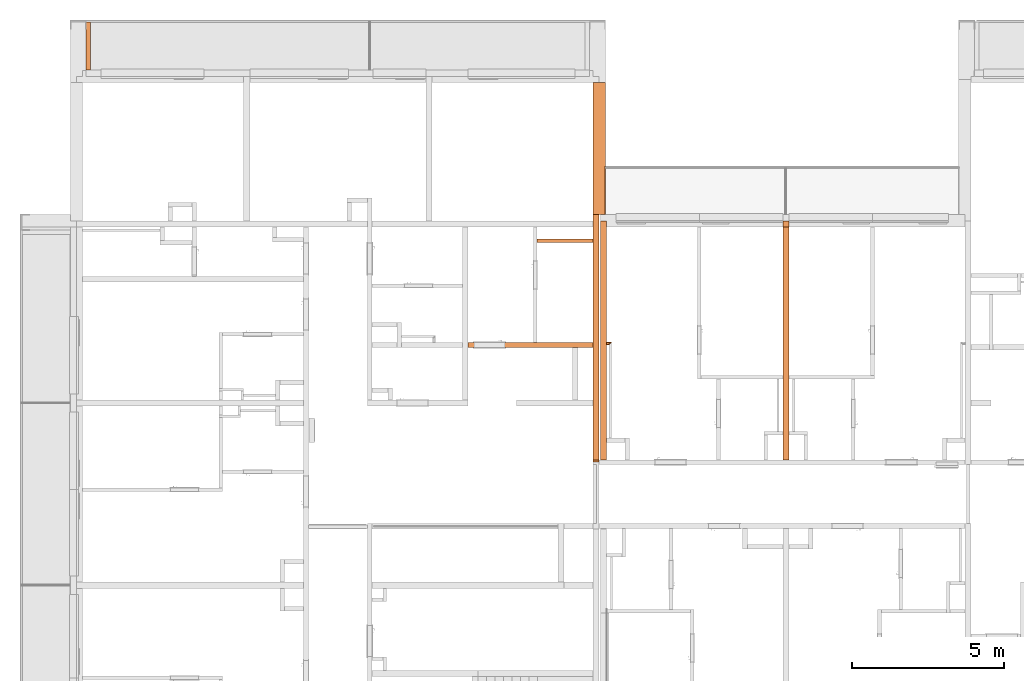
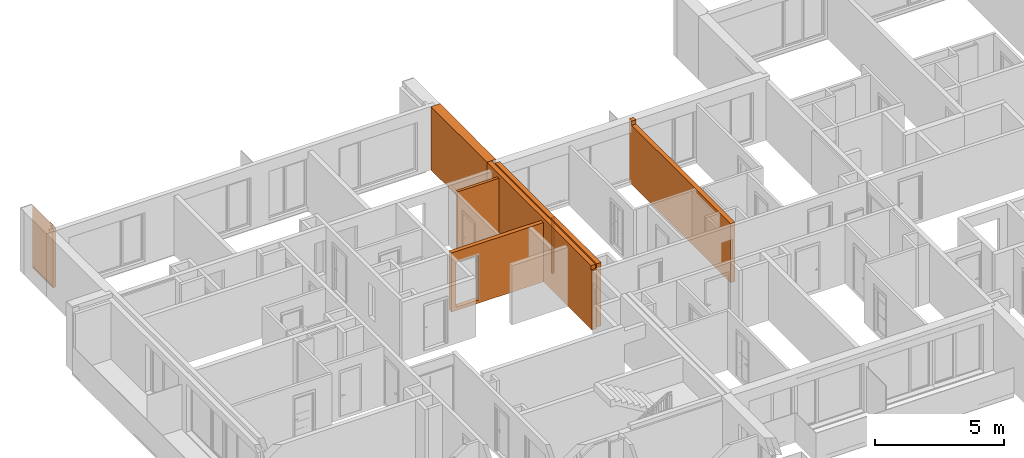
# One storey, part 58 of 64: 8 proxies, 1 opening.
"""IFC2X3 building model written with IfcOpenShell, lengths in millimetres."""

from ifc_helpers import new_model, entity, si_unit, converted_unit, derived_unit, money_unit, direction, frame, origin_with_axes, origin_2d_with_axis, place, context, subcontext, project, spatial, rectangle, extrude, faceted_brep, material, material_list, type_object, element, save


model = new_model("IFC2X3")

# Units and contexts
model_context = context("Model", 3, precision=0.01, world=origin_with_axes(), true_north=direction((0.34421633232, 0.938890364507)))
body_context = subcontext(model_context, "Body", "Model", "MODEL_VIEW")
ifc_project = project(units=[si_unit("LENGTHUNIT", "METRE", prefix="MILLI"), si_unit("AREAUNIT", "SQUARE_METRE"), si_unit("VOLUMEUNIT", "CUBIC_METRE"), converted_unit("PLANEANGLEUNIT", "DEGREE", entity("IfcPlaneAngleMeasure", 0.0174532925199), si_unit("PLANEANGLEUNIT", "RADIAN"), dimensions=[0, 0, 0, 0, 0, 0, 0]), si_unit("SOLIDANGLEUNIT", "STERADIAN"), money_unit("USD"), converted_unit("TIMEUNIT", "Year", entity("IfcTimeMeasure", 31556926.0), si_unit("TIMEUNIT", "SECOND"), dimensions=[0, 0, 1, 0, 0, 0, 0]), si_unit("MASSUNIT", "GRAM", prefix="KILO"), si_unit("THERMODYNAMICTEMPERATUREUNIT", "DEGREE_CELSIUS"), si_unit("LUMINOUSINTENSITYUNIT", "LUMEN"), si_unit("ENERGYUNIT", "JOULE", prefix="MEGA"), derived_unit("THERMALCONDUCTANCEUNIT", [(si_unit("POWERUNIT", "WATT"), 1), (si_unit("LENGTHUNIT", "METRE"), -1), (si_unit("THERMODYNAMICTEMPERATUREUNIT", "KELVIN"), -1)]), derived_unit("SPECIFICHEATCAPACITYUNIT", [(si_unit("ENERGYUNIT", "JOULE"), 1), (si_unit("MASSUNIT", "GRAM", prefix="KILO"), -1), (si_unit("THERMODYNAMICTEMPERATUREUNIT", "KELVIN"), -1)]), derived_unit("MASSDENSITYUNIT", [(si_unit("MASSUNIT", "GRAM", prefix="KILO"), 1), (si_unit("VOLUMEUNIT", "CUBIC_METRE"), -1)])], contexts=[model_context])

# Site, building, storey
site_placement = place(None, origin_with_axes())
site = spatial("IfcSite", under=ifc_project, at=site_placement, Name="USTRONIE MORSKIE", CompositionType="ELEMENT")
building_placement = place(site_placement, origin_with_axes())
building = spatial("IfcBuilding", under=site, at=building_placement, Name="Budynek", CompositionType="ELEMENT")
storey_placement = place(building_placement, frame((0.0, 0.0, 7000.0), z_axis=(0.0, 0.0, 1.0), x_axis=(1.0, 0.0, 0.0)))
storey = spatial("IfcBuildingStorey", under=building, at=storey_placement, Name="PIĘTRO 2", CompositionType="ELEMENT", Elevation=7000.0)

# Proxies
ifc_material_1 = material(Name="Bloczki silikatowe")
building_element_proxy_type_1 = type_object("IfcBuildingElementProxyType", Name="Bloczki silikatowe 120", PredefinedType="NOTDEFINED")
proxy_1_placement = place(storey_placement, frame((365067.901749, 744201.199036, -180.0), z_axis=(0.0, 0.0, 1.0), x_axis=(1.0, 0.0, 0.0)))
element("IfcBuildingElementProxy", 1, at=proxy_1_placement, inside=storey, type_object=building_element_proxy_type_1, material=ifc_material_1, Name="SW-04", context=body_context, shape_type="Brep", body=[
    faceted_brep([(1899.31516707, 0.0, 0.0), (1899.31516707, 0.0, 20.0), (60.0, 0.0, 20.0), (60.0, 0.0, 2820.0), (1900.01916964, 0.0, 2820.0), (1900.01916964, 0.0, 0.0), (1899.2990756, -120.0, 20.0), (1899.2990756, -120.0, 0.0), (60.0, -120.0, 20.0), (60.0, -120.0, 2820.0), (1900.01916964, -120.0, 2820.0), (1900.01916964, -120.0, 0.0)], [[[0, 1, 2, 3, 4, 5]], [[6, 1, 0, 7]], [[8, 2, 1, 6]], [[3, 2, 8, 9]], [[10, 4, 3, 9]], [[4, 10, 11, 5]], [[11, 7, 0, 5]], [[8, 6, 7, 11, 10, 9]]]),
])
ifc_material_2 = material(Name="Beton konstrukcyjny B25")
ifc_material_3 = material(Name="Wełna ELEW")
ifc_material_4 = material(Name="Tynk zewnętrzny")
ifc_material_list_1 = material_list([ifc_material_2, ifc_material_3, ifc_material_4])
building_element_proxy_type_2 = type_object("IfcBuildingElementProxyType", Name="20+20 410", PredefinedType="NOTDEFINED")
proxy_2_placement = place(storey_placement, frame((367067.920919, 745001.199036, -160.0), z_axis=(0.0, 0.0, 1.0), x_axis=(0.0, 1.0, 0.0)))
element("IfcBuildingElementProxy", 2, at=proxy_2_placement, inside=storey, type_object=building_element_proxy_type_2, material=ifc_material_list_1, Name="SZ-01", context=body_context, shape_type="Brep", body=[
    faceted_brep([(4350.0, -100.0, 0.0), (4350.0, -100.0, 3000.0), (0.0, -100.0, 3000.0), (0.0, -100.0, 0.0), (4350.0, 100.0, 3000.0), (4350.0, 100.0, 0.0), (0.0, 100.0, 3000.0), (0.0, 100.0, 0.0)], [[[0, 1, 2, 3]], [[4, 1, 0, 5]], [[1, 4, 6, 2]], [[2, 6, 7, 3]], [[5, 0, 3, 7]], [[4, 5, 7, 6]]]),
    faceted_brep([(0.0, -300.0, 0.0), (4350.0, -300.0, 0.0), (4350.0, -300.0, 3000.0), (0.0, -300.0, 3000.0), (0.0, -100.0, 0.0), (4350.0, -100.0, 0.0), (4350.0, -100.0, 3000.0), (0.0, -100.0, 3000.0)], [[[0, 1, 2, 3]], [[4, 5, 1, 0]], [[5, 6, 2, 1]], [[3, 2, 6, 7]], [[0, 3, 7, 4]], [[7, 6, 5, 4]]]),
    faceted_brep([(1599.99509907, -300.0, 3000.0), (1599.99509907, -310.0, 3000.0), (4350.0, -310.0, 3000.0), (4350.0, -300.0, 3000.0), (1599.99509907, -310.0, 2800.0), (1599.99509907, -300.0, 2800.0), (0.000382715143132, -310.0, 2800.0), (0.000383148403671, -310.0, 110.0), (1599.99509907, -310.0, 110.0), (1599.99509907, -310.0, 0.0), (4350.0, -310.0, 0.0), (4350.0, -300.0, 0.0), (1599.99509907, -300.0, 0.0), (1599.99509907, -300.0, 110.0), (0.000371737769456, -300.0, 110.0), (0.000371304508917, -300.0, 2800.0)], [[[0, 1, 2, 3]], [[4, 1, 0, 5]], [[4, 6, 7, 8, 9, 10, 2, 1]], [[11, 3, 2, 10]], [[5, 0, 3, 11, 12, 13, 14, 15]], [[6, 4, 5, 15]], [[6, 15, 14, 7]], [[8, 7, 14, 13]], [[8, 13, 12, 9]], [[9, 12, 11, 10]]]),
])

# Proxy, opening
building_element_proxy_type_3 = type_object("IfcBuildingElementProxyType", Name="Bloczki silikatowe 180", PredefinedType="NOTDEFINED")
proxy_3_placement = place(storey_placement, frame((362757.920874, 740711.179476, -160.0), z_axis=(0.0, 0.0, 1.0), x_axis=(1.0, 0.0, 0.0)))
proxy_3 = element("IfcBuildingElementProxy", 3, at=proxy_3_placement, inside=storey, type_object=building_element_proxy_type_3, material=ifc_material_1, Name="SW-02", context=body_context, shape_type="Brep", body=[
    faceted_brep([(4210.00004519, -90.0, 2800.0), (4210.00004519, 90.0, 2800.0), (90.0, 90.0, 2800.0), (90.0, -90.0, 2800.0), (4210.00004519, -90.0, 0.0), (4210.00004519, 90.0, 0.0), (90.0, 90.0, 0.0), (90.0, -90.0, 0.0)], [[[0, 1, 2, 3]], [[1, 0, 4, 5]], [[1, 5, 6, 2]], [[7, 3, 2, 6]], [[4, 0, 3, 7]], [[5, 4, 7, 6]]]),
])
opening_placement = place(proxy_3_placement, frame((800.0, 0.0, 160.0), z_axis=(0.0, 0.0, 1.0), x_axis=(1.0, 0.0, 0.0)))
element("IfcOpeningElement", 4, at=opening_placement, cuts=proxy_3, Name="Dw.1", context=body_context, shape_type="SweptSolid", body=[
    extrude(rectangle(XDim=1020.0, YDim=2120.0, at=origin_2d_with_axis()), frame((0.0, -180.0, 1060.0), z_axis=(0.0, -1.0, 0.0), x_axis=(-1.0, 0.0, 0.0)), (0.0, 0.0, -1.0), 540.0),
    extrude(rectangle(XDim=1094.0, YDim=2227.0, at=origin_2d_with_axis()), frame((0.0, -90.0, 1113.5), z_axis=(0.0, -1.0, 0.0), x_axis=(-1.0, 0.0, 0.0)), (0.0, 0.0, 1.0), 180.0),
    extrude(rectangle(XDim=1094.0, YDim=2227.0, at=origin_2d_with_axis()), frame((0.0, 89.9999999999, 1113.5), z_axis=(0.0, 1.0, 0.0), x_axis=(-1.0, 0.0, 0.0)), (0.0, 0.0, 1.0), 180.0),
])

# Proxies
ifc_material_5 = material(Name="Płyta GK")
ifc_material_6 = material(Name="-Pustka powietrzna")
ifc_material_list_2 = material_list([ifc_material_5, ifc_material_5, ifc_material_6])
building_element_proxy_type_4 = type_object("IfcBuildingElementProxyType", Name="330-SD GK 2-warstwy 75", PredefinedType="NOTDEFINED")
proxy_4_placement = place(storey_placement, frame((367317.920919, 740771.202288, -180.0), z_axis=(0.0, 0.0, 1.0), x_axis=(1.0, 0.0, 0.0)))
element("IfcBuildingElementProxy", 5, at=proxy_4_placement, inside=storey, type_object=building_element_proxy_type_4, material=ifc_material_list_2, Name="Ściana-009", context=body_context, shape_type="Brep", body=[
    faceted_brep([(242.477950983, 12.5, 165.0), (242.477952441, 25.0, 165.0), (242.477952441, 25.0, 2820.0), (242.477950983, 12.5, 2820.0), (100.003636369, 25.0000000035, 165.0), (100.003648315, 12.5000000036, 165.0), (100.0, 25.0, 2820.0), (100.0, 12.5, 2820.0)], [[[0, 1, 2, 3]], [[4, 1, 0, 5]], [[1, 4, 6, 2]], [[2, 6, 7, 3]], [[5, 0, 3, 7]], [[4, 5, 7, 6]]]),
    faceted_brep([(229.977949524, 0.0, 165.0), (229.977950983, 12.5, 165.0), (229.977950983, 12.5, 2820.0), (229.977949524, 0.0, 2820.0), (100.003648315, 12.5000000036, 165.0), (100.003660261, 3.52429196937e-09, 165.0), (100.0, 12.5, 2820.0), (100.0, 0.0, 2820.0)], [[[0, 1, 2, 3]], [[4, 1, 0, 5]], [[1, 4, 6, 2]], [[2, 6, 7, 3]], [[5, 0, 3, 7]], [[4, 5, 7, 6]]]),
    faceted_brep([(179.977943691, -50.0, 180.0), (179.977949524, 0.0, 180.0), (179.977949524, 0.0, 2820.0), (179.977943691, -50.0, 2820.0), (100.003660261, 3.52429196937e-09, 180.0), (100.003708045, -49.9999999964, 180.0), (100.0, 0.0, 2820.0), (100.0, -50.0, 2820.0)], [[[0, 1, 2, 3]], [[4, 1, 0, 5]], [[1, 4, 6, 2]], [[2, 6, 7, 3]], [[5, 0, 3, 7]], [[4, 5, 7, 6]]]),
])
building_element_proxy_type_5 = type_object("IfcBuildingElementProxyType", Name="Beton konstrukcyjny B25 200", PredefinedType="NOTDEFINED")
proxy_5_placement = place(storey_placement, frame((367067.920919, 745001.199036, -160.0), z_axis=(0.0, 0.0, 1.0), x_axis=(0.0, -1.0, 0.0)))
element("IfcBuildingElementProxy", 6, at=proxy_5_placement, inside=storey, type_object=building_element_proxy_type_5, material=ifc_material_2, Name="SW-01", context=body_context, shape_type="Brep", body=[
    faceted_brep([(0.0, -100.0, 3000.0), (8070.0, -100.0, 3000.0), (8070.0, 100.0, 3000.0), (0.0, 100.0, 3000.0), (8150.0, -100.0, 2800.0), (8070.0, -100.0, 2800.0), (0.0, -100.0, 0.0), (8150.0, -100.0, 0.0), (8070.0, 100.0, 2800.0), (8150.0, 100.0, 2800.0), (8150.0, 100.0, 0.0), (0.0, 100.0, 0.0)], [[[0, 1, 2, 3]], [[4, 5, 1, 0, 6, 7]], [[5, 8, 2, 1]], [[2, 8, 9, 10, 11, 3]], [[0, 3, 11, 6]], [[4, 9, 8, 5]], [[10, 7, 6, 11]], [[10, 9, 4, 7]]]),
])
proxy_6_placement = place(storey_placement, frame((373317.920919, 736851.199036, -160.0), z_axis=(0.0, 0.0, 1.0), x_axis=(0.0, 1.0, 0.0)))
element("IfcBuildingElementProxy", 7, at=proxy_6_placement, inside=storey, type_object=building_element_proxy_type_5, material=ifc_material_2, Name="SW-01", context=body_context, shape_type="Brep", body=[
    faceted_brep([(7950.00703345, 100.0, 3000.0), (7750.00703345, 100.0, 3000.0), (7750.00726218, -100.0, 3000.0), (7950.00726218, -100.0, 3000.0), (80.0, 100.0, 2800.0), (7750.00703345, 100.0, 2800.0), (7950.00703345, 100.0, 0.0), (80.0, 100.0, 0.0), (7750.00726218, -100.0, 2800.0), (80.0, -100.0, 2800.0), (80.0, -100.0, 0.0), (7950.00726218, -100.0, 0.0)], [[[0, 1, 2, 3]], [[4, 5, 1, 0, 6, 7]], [[5, 8, 2, 1]], [[2, 8, 9, 10, 11, 3]], [[6, 0, 3, 11]], [[4, 9, 8, 5]], [[6, 11, 10, 7]], [[10, 9, 4, 7]]]),
])
proxy_7_placement = place(storey_placement, frame((367317.920919, 744701.199036, -160.0), z_axis=(0.0, 0.0, 1.0), x_axis=(0.0, -1.0, 0.0)))
element("IfcBuildingElementProxy", 8, at=proxy_7_placement, inside=storey, type_object=building_element_proxy_type_5, material=ifc_material_2, Name="SW-01", context=body_context, shape_type="Brep", body=[
    faceted_brep([(-100.000171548, -100.0, 3000.0), (7770.0, -100.0, 3000.0), (7770.0, 100.0, 3000.0), (-100.000400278, 100.0, 3000.0), (7770.0, -100.0, 0.0), (7770.0, -100.0, 2800.0), (-100.000171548, -100.0, 0.0), (7770.0, 100.0, 2800.0), (7770.0, 100.0, 0.0), (-100.000400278, 100.0, 0.0)], [[[0, 1, 2, 3]], [[4, 5, 1, 0, 6]], [[5, 7, 2, 1]], [[3, 2, 7, 8, 9]], [[9, 6, 0, 3]], [[8, 7, 5, 4]], [[6, 9, 8, 4]]]),
])
ifc_material_7 = material(Name="Laminat")
building_element_proxy_type_6 = type_object("IfcBuildingElementProxyType", Name="Laminat 150", PredefinedType="NOTDEFINED")
proxy_8_placement = place(storey_placement, frame((350352.787991, 749761.04617, -160.0), z_axis=(0.0, 0.0, 1.0), x_axis=(-9.14543761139e-06, 0.999999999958, 0.0)))
element("IfcBuildingElementProxy", 9, at=proxy_8_placement, inside=storey, type_object=building_element_proxy_type_6, material=ifc_material_7, Name="SW-03", context=body_context, shape_type="Brep", body=[
    faceted_brep([(1589.99981684, 75.0, 3000.0), (1589.99971409, 75.0, 9.99999623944), (0.0, 75.0, 9.99999623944), (0.0, 75.0, 3000.0), (1547.49980813, 75.0, 14.9999951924), (1572.49971536, 75.0, 14.9999951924), (1572.49971536, 75.0, 109.999995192), (4.99980812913, 74.9999999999, 109.999995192), (4.99980812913, 74.9999999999, 84.9999951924), (1547.49980813, 75.0, 84.9999951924), (1589.99981684, -75.0, 2789.99999183), (1589.99971409, -75.0, 9.99999623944), (1589.99981684, 74.7050617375, 3000.00002271), (1589.99981684, 74.7050617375, 2789.99999183), (0.0, -75.0, 9.99999623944), (0.0, -75.0, 2800.00001425), (1.13686837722e-10, 74.7341442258, 2800.00001423), (1.13686837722e-10, 74.7341442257, 3000.00002271), (1547.49980813, -75.0, 14.9999951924), (1572.49971536, -75.0, 14.9999951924), (1572.49971536, -75.0, 109.999995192), (4.99980812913, -75.0, 109.999995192), (4.99980812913, -75.0, 84.9999951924), (1547.49980813, -75.0, 84.9999951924), (0.148208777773, -75.0, 2789.99999183), (0.148692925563, -75.0, 2800.00001425), (0.151431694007, 74.734141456, 2800.00001425), (0.150947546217, 74.7341414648, 2789.99999183)], [[[0, 1, 2, 3], [4, 5, 6, 7, 8, 9]], [[10, 11, 1, 0, 12, 13]], [[1, 11, 14, 2]], [[3, 2, 14, 15, 16, 17]], [[3, 17, 12, 0]], [[4, 18, 19, 5]], [[5, 19, 20, 6]], [[6, 20, 21, 7]], [[7, 21, 22, 8]], [[8, 22, 23, 9]], [[9, 23, 18, 4]], [[15, 14, 11, 10, 24, 25], [18, 23, 22, 21, 20, 19]], [[16, 26, 27, 13, 12, 17]], [[27, 24, 10, 13]], [[15, 25, 26, 16]], [[27, 26, 25, 24]]]),
])

save(model, "model.ifc")
